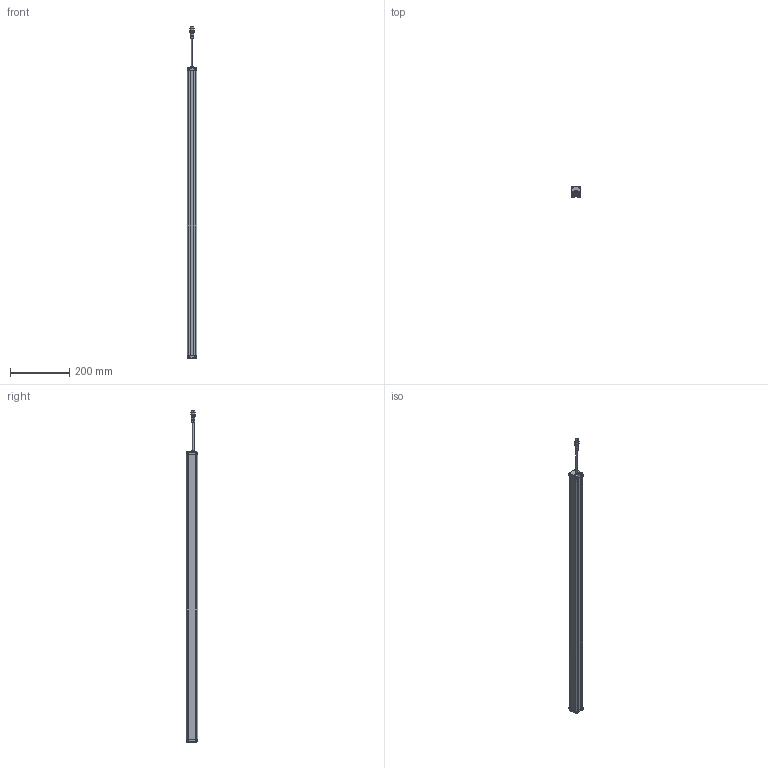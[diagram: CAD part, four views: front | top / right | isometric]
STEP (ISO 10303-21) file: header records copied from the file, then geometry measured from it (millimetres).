
FILE_DESCRIPTION((''),'2;1');
FILE_NAME('PRT0024','2026-03-31T13:10:43',('Administrator'),(''),'CREO PARAMETRIC BY PTC INC, 2016510','CREO PARAMETRIC BY PTC INC, 2016510','');
FILE_SCHEMA(('AUTOMOTIVE_DESIGN { 1 0 10303 214 1 1 1 1 }'));
Length unit declared in the file: millimetre
Products named in the file (1): PRT0024
Bounding box: 33 x 38 x 1121.9 mm (x, y, z)
Surface area: 217753.5 mm2 (no closed solid volume)
Topology: 0 solids, 12 shells, 819 faces, 2185 edges, 1385 vertices
Faces by surface type: plane 388, cylinder 235, extrusion 88, sphere 40, torus 36, cone 28, bspline 4
Entity records: 32365 total; most frequent: CARTESIAN_POINT 6097, ORIENTED_EDGE 4266, DIRECTION 4043, EDGE_CURVE 2133, VERTEX_POINT 1385, AXIS2_PLACEMENT_3D 1377, VECTOR 1289, LINE 1201
